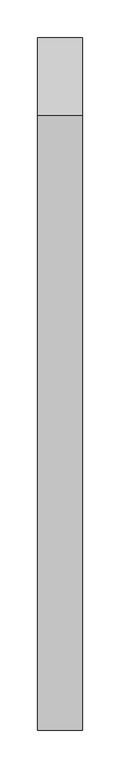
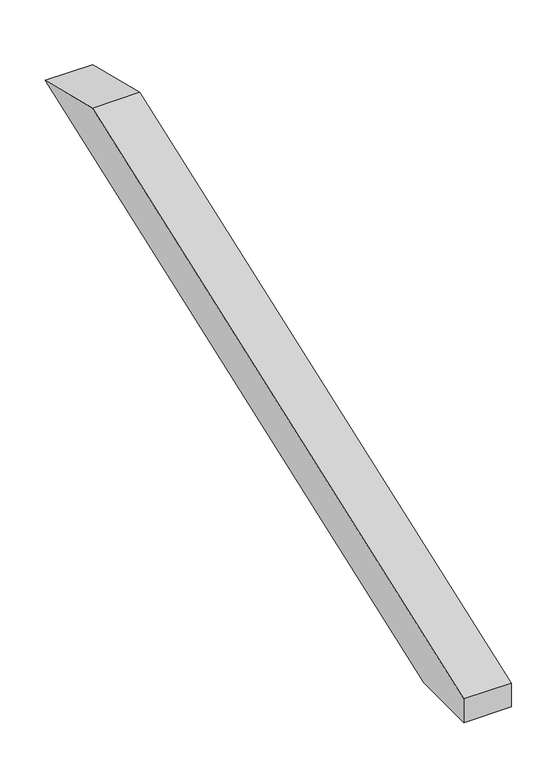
"""IFC4 building model written with IfcOpenShell, lengths in millimetres: proxy geometry, Modelos genéricos 114 : Modelos genéricos 14."""

from ifc_helpers import new_model, si_unit, frame, origin, place, context, project, spatial, polyline, outline, extrude, source, transform, mapped, element, save


def generic_models_49e64a29(model_context):
    return source(origin(), model_context, "Body", "SweptSolid", [
        extrude(outline(polyline([(4380.24101, 3463.5158927), (3546.3379485, 3160.0), (3458.6238165, 3160.0), (3458.6238165, 3191.9253332), (4276.1307053, 3489.473507), (4380.24101, 3463.5158927)])), frame((5573.4472467, 0.0, 0.0), z_axis=(1.0, 0.0, 0.0), x_axis=(0.0, 1.0, 0.0)), (0.0, 0.0, 1.0), 60.0),
    ])


if __name__ == "__main__":
    model = new_model("IFC4")
    model_context = context("Model", 3, world=origin())
    ifc_project = project(units=[si_unit("LENGTHUNIT", "METRE", prefix="MILLI")], contexts=[model_context])
    site = spatial("IfcSite", under=ifc_project)
    building = spatial("IfcBuilding", under=site)
    placement = place(None, origin())
    generic_models_shape = generic_models_49e64a29(model_context)
    element("IfcBuildingElementProxy", 1, Name="Modelos genéricos 114 : Modelos genéricos 14", ObjectType="Modelos genéricos 114 : Modelos genéricos 14", at=placement, inside=building, context=model_context, shape_type="MappedRepresentation", body=[
        mapped(generic_models_shape, transform((0.0, 0.0, 0.0), x_axis=(1.0, 0.0, 0.0), y_axis=(0.0, 1.0, 0.0), z_axis=(0.0, 0.0, 1.0))),
    ])
    save(model, "model.ifc")
